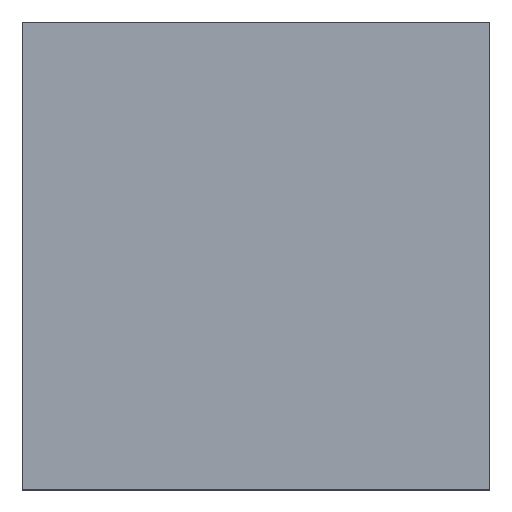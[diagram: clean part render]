
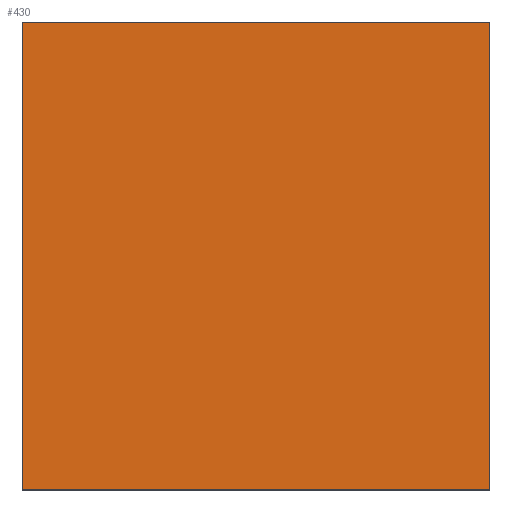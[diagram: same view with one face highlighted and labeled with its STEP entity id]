
A CAD part, top view. The second image highlights one B-rep face of the part: STEP entity #430.
In plain terms, the highlighted planar face has unit normal (0, 0, 1).
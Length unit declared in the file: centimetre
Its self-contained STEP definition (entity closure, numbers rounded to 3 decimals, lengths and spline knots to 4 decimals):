
#4 = VECTOR ( 'NONE', #504, 100. ) ;
#10 = ORIENTED_EDGE ( 'NONE', *, *, #418, .T. ) ;
#58 = EDGE_LOOP ( 'NONE', ( #10, #330, #173, #143 ) ) ;
#89 = VERTEX_POINT ( 'NONE', #145 ) ;
#99 = VECTOR ( 'NONE', #230, 100. ) ;
#103 = CARTESIAN_POINT ( 'NONE',  ( 1000., 1000., 1000. ) ) ;
#104 = VERTEX_POINT ( 'NONE', #103 ) ;
#118 = LINE ( 'NONE', #283, #470 ) ;
#143 = ORIENTED_EDGE ( 'NONE', *, *, #528, .T. ) ;
#145 = CARTESIAN_POINT ( 'NONE',  ( 0., 0., 1000. ) ) ;
#160 = CARTESIAN_POINT ( 'NONE',  ( 0., 1000., 1000. ) ) ;
#165 = AXIS2_PLACEMENT_3D ( 'NONE', #205, #422, #253 ) ;
#170 = DIRECTION ( 'NONE',  ( 0., -1., 0. ) ) ;
#173 = ORIENTED_EDGE ( 'NONE', *, *, #246, .T. ) ;
#205 = CARTESIAN_POINT ( 'NONE',  ( 0., 0., 1000. ) ) ;
#230 = DIRECTION ( 'NONE',  ( -1., 0., 0. ) ) ;
#240 = DIRECTION ( 'NONE',  ( 0., 1., 0. ) ) ;
#246 = EDGE_CURVE ( 'NONE', #290, #104, #118, .T. ) ;
#253 = DIRECTION ( 'NONE',  ( 1., 0., 0. ) ) ;
#255 = PLANE ( 'NONE',  #165 ) ;
#261 = LINE ( 'NONE', #488, #99 ) ;
#283 = CARTESIAN_POINT ( 'NONE',  ( 1000., 1000., 1000. ) ) ;
#290 = VERTEX_POINT ( 'NONE', #371 ) ;
#309 = VERTEX_POINT ( 'NONE', #160 ) ;
#329 = EDGE_CURVE ( 'NONE', #89, #290, #463, .T. ) ;
#330 = ORIENTED_EDGE ( 'NONE', *, *, #329, .T. ) ;
#371 = CARTESIAN_POINT ( 'NONE',  ( 1000., 0., 1000. ) ) ;
#418 = EDGE_CURVE ( 'NONE', #309, #89, #555, .T. ) ;
#422 = DIRECTION ( 'NONE',  ( 0., 0., 1. ) ) ;
#430 = ADVANCED_FACE ( 'NONE', ( #469 ), #255, .T. ) ;
#463 = LINE ( 'NONE', #542, #4 ) ;
#469 = FACE_OUTER_BOUND ( 'NONE', #58, .T. ) ;
#470 = VECTOR ( 'NONE', #240, 100. ) ;
#472 = CARTESIAN_POINT ( 'NONE',  ( 0., 1000., 1000. ) ) ;
#488 = CARTESIAN_POINT ( 'NONE',  ( 0., 1000., 1000. ) ) ;
#504 = DIRECTION ( 'NONE',  ( 1., 0., 0. ) ) ;
#528 = EDGE_CURVE ( 'NONE', #104, #309, #261, .T. ) ;
#542 = CARTESIAN_POINT ( 'NONE',  ( 0., 0., 1000. ) ) ;
#555 = LINE ( 'NONE', #472, #556 ) ;
#556 = VECTOR ( 'NONE', #170, 100. ) ;
